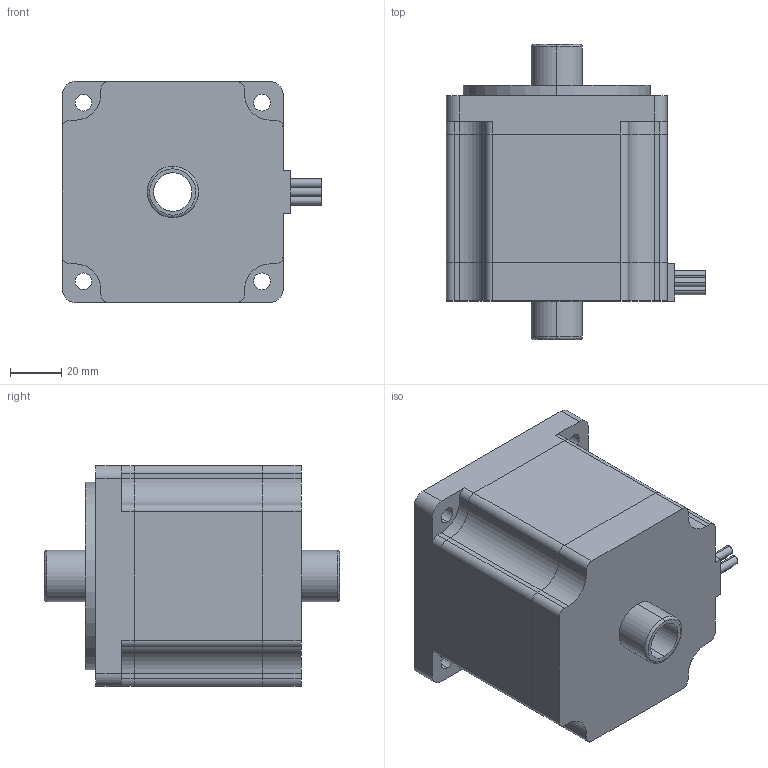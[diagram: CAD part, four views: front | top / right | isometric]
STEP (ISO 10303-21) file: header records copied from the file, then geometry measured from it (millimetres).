
FILE_DESCRIPTION (( 'STEP AP203' ), '1' );
FILE_NAME ('STCK-86D45-1480.STEP', '2019-10-12T07:50:09', ( 'China' ), ( 'Home' ), 'SwSTEP 2.0', 'SolidWorks 2016', '' );
FILE_SCHEMA (( 'CONFIG_CONTROL_DESIGN' ));
Length unit declared in the file: millimetre
Products named in the file (1): STCK-86D45-1480
Bounding box: 101 x 115 x 86 mm (x, y, z)
Volume: 539208.2 mm3; surface area: 75199.1 mm2
Topology: 3 solids, 3 shells, 132 faces, 350 edges, 232 vertices
Faces by surface type: cylinder 70, plane 58, bspline 4
Entity records: 4465 total; most frequent: CARTESIAN_POINT 959, DIRECTION 748, ORIENTED_EDGE 700, EDGE_CURVE 350, AXIS2_PLACEMENT_3D 273, VERTEX_POINT 232, LINE 202, VECTOR 202
